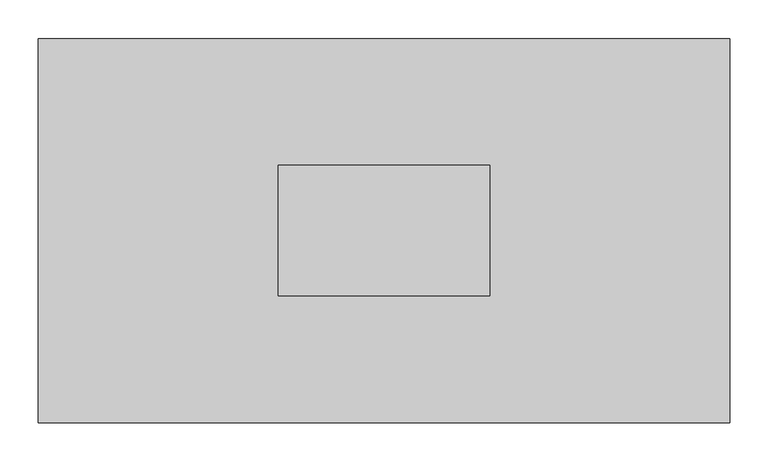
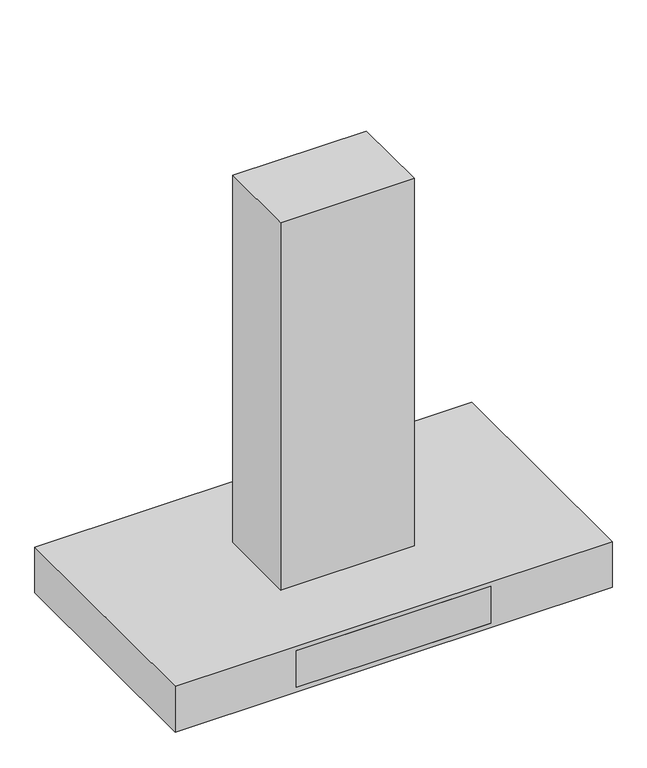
"""IFC4 building model written with IfcOpenShell, lengths in millimetres: proxy geometry, Coifa Gourmand de Parede : Coifa Gourmand de Parede."""

from ifc_helpers import new_model, si_unit, point, frame, frame_2d, origin, place, context, project, spatial, polyline, circle_curve, trimmed, segment, composite_curve, outline, extrude, faceted_brep, source, transform, mapped, element, save


def mechanical_equipment_0401596d(model_context):
    return source(origin(), model_context, "Body", "SolidModel", [
        extrude(outline(polyline([(137.5, 85.0), (137.5, -85.0), (-137.5, -85.0), (-137.5, 85.0), (137.5, 85.0)])), frame((0.0, 0.0, 584.9499323), z_axis=(0.0, 0.0, 1.0), x_axis=(1.0, 0.0, 0.0)), (0.0, 0.0, 1.0), 800.0),
        extrude(outline(composite_curve([segment(trimmed(circle_curve(frame_2d((-284.8476128, -184.6504858)), 30.0), [point((-314.8476128, -184.6504858))], [point((-254.8476128, -184.6504858))], False, "CARTESIAN"), True, "CONTINUOUS"), segment(trimmed(circle_curve(frame_2d((-284.8476128, -184.6504858)), 30.0), [point((-254.8476128, -184.6504858))], [point((-314.8476128, -184.6504858))], False, "CARTESIAN"), True, "CONTINUOUS")], self_intersect=False), holes=[composite_curve([segment(trimmed(circle_curve(frame_2d((-284.8476128, -184.6504858)), 27.0337043), [point((-311.8813171, -184.6504858))], [point((-257.8139086, -184.6504858))], True, "CARTESIAN"), True, "CONTINUOUS"), segment(trimmed(circle_curve(frame_2d((-284.8476128, -184.6504858)), 27.0337043), [point((-257.8139086, -184.6504858))], [point((-311.8813171, -184.6504858))], True, "CARTESIAN"), True, "CONTINUOUS")], self_intersect=False)]), frame((0.0, 0.0, 482.9499323), z_axis=(0.0, 0.0, 1.0), x_axis=(1.0, 0.0, 0.0)), (0.0, 0.0, 1.0), 2.0),
        extrude(outline(composite_curve([segment(trimmed(circle_curve(frame_2d((-284.8476128, -184.6504858)), 25.543583), [point((-310.3911958, -184.6504858))], [point((-259.3040298, -184.6504858))], False, "CARTESIAN"), True, "CONTINUOUS"), segment(trimmed(circle_curve(frame_2d((-284.8476128, -184.6504858)), 25.543583), [point((-259.3040298, -184.6504858))], [point((-310.3911958, -184.6504858))], False, "CARTESIAN"), True, "CONTINUOUS")], self_intersect=False)), frame((0.0, 0.0, 482.9499323), z_axis=(0.0, 0.0, 1.0), x_axis=(1.0, 0.0, 0.0)), (0.0, 0.0, 1.0), 2.0),
        extrude(outline(composite_curve([segment(trimmed(circle_curve(frame_2d((284.8476128, -184.6504858)), 30.0), [point((254.8476128, -184.6504858))], [point((314.8476128, -184.6504858))], False, "CARTESIAN"), True, "CONTINUOUS"), segment(trimmed(circle_curve(frame_2d((284.8476128, -184.6504858)), 30.0), [point((314.8476128, -184.6504858))], [point((254.8476128, -184.6504858))], False, "CARTESIAN"), True, "CONTINUOUS")], self_intersect=False), holes=[composite_curve([segment(trimmed(circle_curve(frame_2d((284.8476128, -184.6504858)), 27.0337043), [point((257.8139086, -184.6504858))], [point((311.8813171, -184.6504858))], True, "CARTESIAN"), True, "CONTINUOUS"), segment(trimmed(circle_curve(frame_2d((284.8476128, -184.6504858)), 27.0337043), [point((311.8813171, -184.6504858))], [point((257.8139086, -184.6504858))], True, "CARTESIAN"), True, "CONTINUOUS")], self_intersect=False)]), frame((0.0, 0.0, 482.9499323), z_axis=(0.0, 0.0, 1.0), x_axis=(1.0, 0.0, 0.0)), (0.0, 0.0, 1.0), 2.0),
        extrude(outline(composite_curve([segment(trimmed(circle_curve(frame_2d((284.8476128, -184.6504858)), 25.543583), [point((259.3040298, -184.6504858))], [point((310.3911958, -184.6504858))], False, "CARTESIAN"), True, "CONTINUOUS"), segment(trimmed(circle_curve(frame_2d((284.8476128, -184.6504858)), 25.543583), [point((310.3911958, -184.6504858))], [point((259.3040298, -184.6504858))], False, "CARTESIAN"), True, "CONTINUOUS")], self_intersect=False)), frame((0.0, 0.0, 482.9499323), z_axis=(0.0, 0.0, 1.0), x_axis=(1.0, 0.0, 0.0)), (0.0, 0.0, 1.0), 2.0),
        extrude(outline(polyline([(200.0, -250.0), (-200.0, -250.0), (-200.0, -242.3880423), (200.0, -242.3880423), (200.0, -250.0)])), frame((0.0, 0.0, 494.9499323), z_axis=(0.0, 0.0, 1.0), x_axis=(1.0, 0.0, 0.0)), (0.0, 0.0, 1.0), 80.0),
        faceted_brep([(450.0, 250.0, 584.9499323), (-450.0, 250.0, 584.9499323), (-450.0, -250.0, 584.9499323), (450.0, -250.0, 584.9499323), (450.0, 250.0, 484.9499323), (450.0, -250.0, 484.9499323), (-450.0, -250.0, 484.9499323), (-450.0, 250.0, 484.9499323), (420.0, -220.0, 484.9499323), (420.0, 220.0, 484.9499323), (370.0, 220.0, 484.9499323), (370.0, -140.0, 484.9499323), (-370.0, -140.0, 484.9499323), (-370.0, 220.0, 484.9499323), (-420.0, 220.0, 484.9499323), (-420.0, -220.0, 484.9499323), (-200.0, -250.0, 574.9499323), (200.0, -250.0, 574.9499323), (200.0, -250.0, 494.9499323), (-200.0, -250.0, 494.9499323), (420.0, -220.0, 504.9499323), (-420.0, -220.0, 504.9499323), (-420.0, 220.0, 504.9499323), (-360.0, 220.0, 504.9499323), (-360.0, -130.0, 504.9499323), (360.0, -130.0, 504.9499323), (360.0, 220.0, 504.9499323), (420.0, 220.0, 504.9499323), (-417.0, -150.0, 504.9499323), (-417.0, -217.0, 504.9499323), (417.0, -217.0, 504.9499323), (417.0, -150.0, 504.9499323), (360.0, 220.0, 494.9499323), (370.0, 220.0, 494.9499323), (-370.0, 220.0, 494.9499323), (-360.0, 220.0, 494.9499323), (-417.0, -150.0, 484.9499323), (417.0, -150.0, 484.9499323), (417.0, -217.0, 484.9499323), (-417.0, -217.0, 484.9499323), (-370.0, -140.0, 494.9499323), (370.0, -140.0, 494.9499323), (360.0, -130.0, 494.9499323), (-360.0, -130.0, 494.9499323), (200.0, -242.3880423, 574.9499323), (-200.0, -242.3880423, 574.9499323), (-200.0, -242.3880423, 494.9499323), (200.0, -242.3880423, 494.9499323)], [[[0, 1, 2, 3]], [[4, 5, 6, 7], [8, 9, 10, 11, 12, 13, 14, 15]], [[1, 0, 4, 7]], [[2, 1, 7, 6]], [[3, 2, 6, 5], [16, 17, 18, 19]], [[0, 3, 5, 4]], [[20, 21, 22, 23, 24, 25, 26, 27], [28, 29, 30, 31]], [[20, 27, 9, 8]], [[9, 27, 26, 32, 33, 10]], [[22, 14, 13, 34, 35, 23]], [[22, 21, 15, 14]], [[21, 20, 8, 15]], [[36, 37, 38, 39]], [[36, 39, 29, 28]], [[39, 38, 30, 29]], [[38, 37, 31, 30]], [[37, 36, 28, 31]], [[34, 40, 41, 33, 32, 42, 43, 35]], [[40, 34, 13, 12]], [[41, 40, 12, 11]], [[33, 41, 11, 10]], [[43, 24, 23, 35]], [[24, 43, 42, 25]], [[25, 42, 32, 26]], [[44, 45, 46, 47]], [[45, 44, 17, 16]], [[46, 45, 16, 19]], [[47, 46, 19, 18]], [[44, 47, 18, 17]]]),
    ])


if __name__ == "__main__":
    model = new_model("IFC4")
    model_context = context("Model", 3, world=origin())
    ifc_project = project(units=[si_unit("LENGTHUNIT", "METRE", prefix="MILLI")], contexts=[model_context])
    site = spatial("IfcSite", under=ifc_project)
    building = spatial("IfcBuilding", under=site)
    placement = place(None, origin())
    mechanical_equipment_shape = mechanical_equipment_0401596d(model_context)
    element("IfcBuildingElementProxy", 1, Name="Coifa Gourmand de Parede : Coifa Gourmand de Parede", ObjectType="Coifa Gourmand de Parede : Coifa Gourmand de Parede", at=placement, inside=building, context=model_context, shape_type="MappedRepresentation", body=[
        mapped(mechanical_equipment_shape, transform((0.0, 0.0, 0.0), x_axis=(1.0, 0.0, 0.0), y_axis=(0.0, 1.0, 0.0), z_axis=(0.0, 0.0, 1.0))),
    ])
    save(model, "model.ifc")
